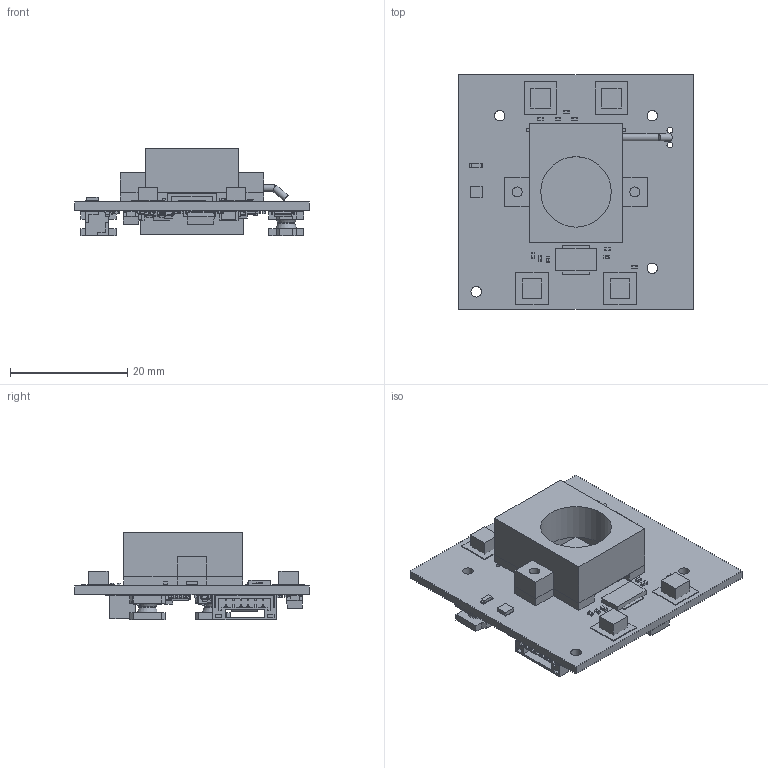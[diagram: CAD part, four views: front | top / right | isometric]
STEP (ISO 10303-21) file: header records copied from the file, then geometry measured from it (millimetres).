
FILE_DESCRIPTION(('KiCad electronic assembly'),'2;1');
FILE_NAME('front.step','2026-11-27T15:56:56',('Pcbnew'),('Kicad'), 'Open CASCADE STEP processor 7.9','KiCad to STEP converter','Unknown' );
FILE_SCHEMA(('AUTOMOTIVE_DESIGN { 1 0 10303 214 1 1 1 1 }'));
Length unit declared in the file: millimetre
Products named in the file (44): front 1; C_0402_1005Metric; Vishay_VSMA1085600_3.4x3.4mm; R_0402_1005Metric; Lite-On_LTR-329ALS-01_2x2mm_P1.2mm; M12_Holder_20mm_CLA216-ICR; Everlight_ALS-PT19_1.7x0.8mm; Hirose_DF30FC-24DS-0.4V_2x12_P0.4mm; L_Bourns_SRN6045TA; BTB_ST-BTB-058060-B_2x30_P0.5mm; SOT-23-5; D_SOD-323; SOT-523; Oscillator_SMD_SiT_PQFN-4Pin_2.0x1.6mm; C_0603_1608Metric; D_SMA; C_1206_3216Metric; MSOP-8-1EP_3x3mm_P0.65mm_EP1.5x1.8mm; SOT-23; WSON-8-1EP_2x2mm_P0.5mm_EP0.9x1.6mm; WSON_8_1EP_2x2mm_P05mm_EP09x16mm; JST_GH_SM06B-GHS-TB_1x06-1MP_P1.25mm_Horizontal; JST_SM06B_GHS_TB; R_1206_3216Metric; front_PCB
Assembly tree (93 placements, depth 3):
  front 1
    C_0402_1005Metric  x18
      C_0402_1005Metric
    Vishay_VSMA1085600_3.4x3.4mm  x4
      Vishay_VSMA1085600_3.4x3.4mm
    R_0402_1005Metric  x20
      R_0402_1005Metric
    Lite-On_LTR-329ALS-01_2x2mm_P1.2mm
      Lite-On_LTR-329ALS-01_2x2mm_P1.2mm
    M12_Holder_20mm_CLA216-ICR
      M12_Holder_20mm_CLA216-ICR
    Everlight_ALS-PT19_1.7x0.8mm
      Everlight_ALS-PT19_1.7x0.8mm
    Hirose_DF30FC-24DS-0.4V_2x12_P0.4mm
      Hirose_DF30FC-24DS-0.4V_2x12_P0.4mm
    L_Bourns_SRN6045TA  x2
      L_Bourns_SRN6045TA
    BTB_ST-BTB-058060-B_2x30_P0.5mm
      BTB_ST-BTB-058060-B_2x30_P0.5mm
    SOT-23-5
      SOT-23-5
    D_SOD-323  x3
      D_SOD-323
    SOT-523  x3
      SOT-523
    Oscillator_SMD_SiT_PQFN-4Pin_2.0x1.6mm
      Oscillator_SMD_SiT_PQFN-4Pin_2.0x1.6mm
    C_0603_1608Metric
      C_0603_1608Metric
    D_SMA  x2
      D_SMA
    C_1206_3216Metric  x2
      C_1206_3216Metric
    MSOP-8-1EP_3x3mm_P0.65mm_EP1.5x1.8mm  x2
      MSOP-8-1EP_3x3mm_P0.65mm_EP1.5x1.8mm
    SOT-23  x3
      SOT-23
    WSON-8-1EP_2x2mm_P0.5mm_EP0.9x1.6mm
      WSON_8_1EP_2x2mm_P05mm_EP09x16mm
    JST_GH_SM06B-GHS-TB_1x06-1MP_P1.25mm_Horizontal
      JST_SM06B_GHS_TB
    R_1206_3216Metric  x2
      R_1206_3216Metric
    front_PCB
Bounding box: 40 x 40 x 14.99 mm (x, y, z)
Volume: 5100 mm3; surface area: 7945.3 mm2
Topology: 86 solids, 86 shells, 2668 faces, 6909 edges, 4484 vertices
Faces by surface type: plane 1908, cylinder 606, bspline 148, cone 4, torus 2
Full cylindrical faces by diameter (mm): 0.25 x1, 0.6 x2, 1 x2, 1.2 x2, 1.7 x4, 1.8 x6, 12 x1
Entity records: 41382 total; most frequent: CARTESIAN_POINT 6197, ORIENTED_EDGE 5697, DIRECTION 5306, EDGE_CURVE 2849, LINE 2410, VECTOR 2410, VERTEX_POINT 1851, AXIS2_PLACEMENT_3D 1448
